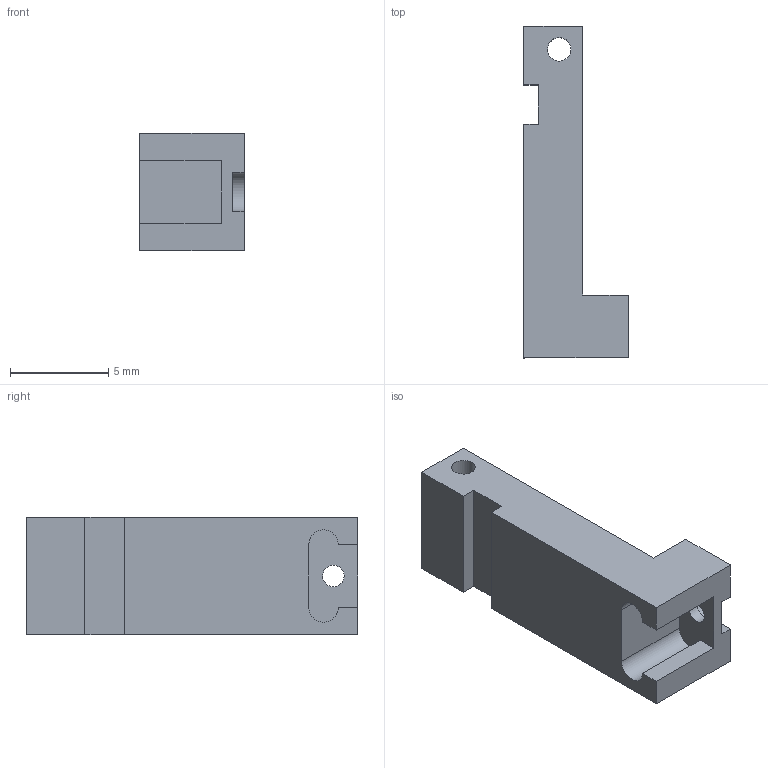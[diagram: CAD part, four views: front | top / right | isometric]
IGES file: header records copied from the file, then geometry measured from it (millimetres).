
Global section: file name: triad-v2b-right-arm-W VER3; native system: unknown; preprocessor: unknown; author: unknown; organization: unknown; date: 20210615.152726; units: millimetre
Bounding box: 5.33 x 16.91 x 6 mm (x, y, z)
Volume: 289.7 mm3; surface area: 439.8 mm2
Topology: 1 solids, 1 shells, 25 faces, 70 edges, 47 vertices
Faces by surface type: bspline 25
